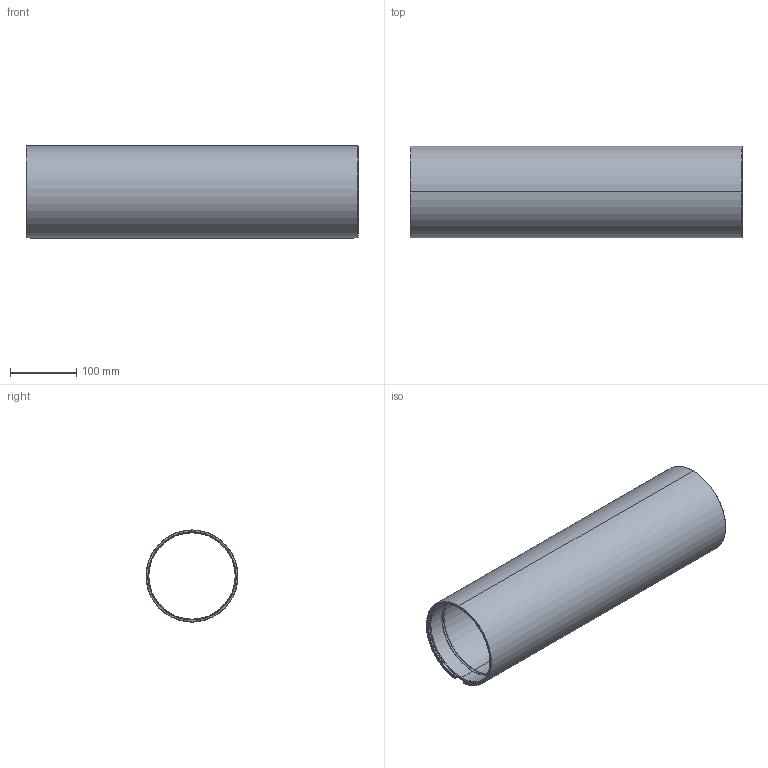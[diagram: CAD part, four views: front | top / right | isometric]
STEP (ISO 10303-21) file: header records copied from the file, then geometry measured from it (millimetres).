
FILE_DESCRIPTION (( 'STEP AP203' ), '1' );
FILE_NAME ('BR-106280-500_RevA.step', '2026-01-13T23:40:04', ( '' ), ( '' ), 'SwSTEP 2.0', 'SolidWorks 2024', '' );
FILE_SCHEMA (( 'CONFIG_CONTROL_DESIGN' ));
Length unit declared in the file: millimetre
Products named in the file (1): BR-106280-500
Bounding box: 500 x 138.4 x 138.7 mm (x, y, z)
Volume: 897255.5 mm3; surface area: 424912.6 mm2
Topology: 1 solids, 1 shells, 90 faces, 232 edges, 142 vertices
Faces by surface type: bspline 24, torus 20, cylinder 20, cone 14, plane 12
Entity records: 6077 total; most frequent: CARTESIAN_POINT 4065, ORIENTED_EDGE 464, DIRECTION 326, EDGE_CURVE 232, AXIS2_PLACEMENT_3D 143, VERTEX_POINT 142, B_SPLINE_CURVE_WITH_KNOTS 112, ADVANCED_FACE 90
